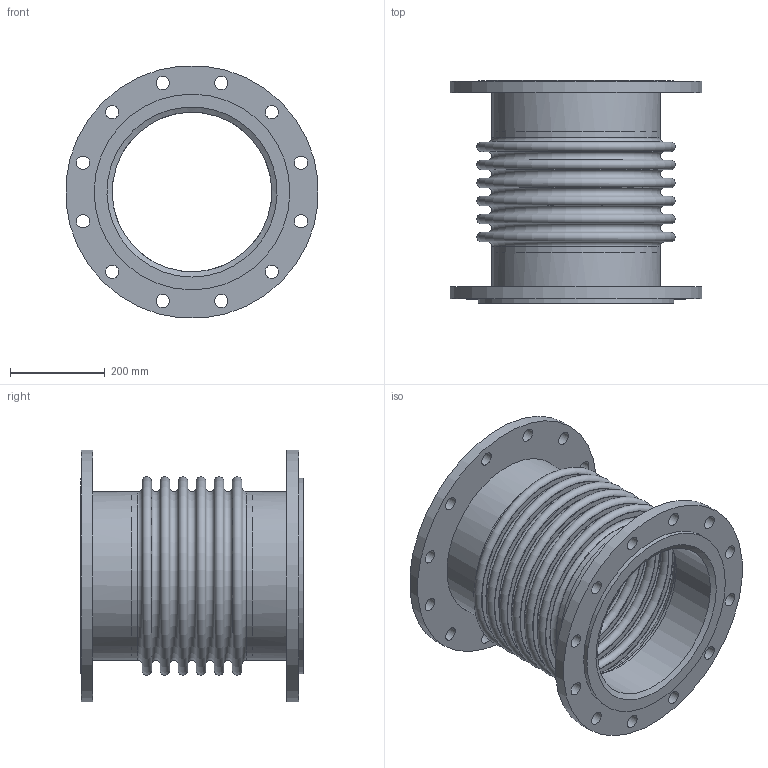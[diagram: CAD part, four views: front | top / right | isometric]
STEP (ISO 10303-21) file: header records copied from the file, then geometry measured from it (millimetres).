
FILE_DESCRIPTION(/* description */ (''),/* implementation_level */ '2;1');
FILE_NAME(/* name */ '\\Mleuckthor2\cad-proe_solids\WEBSITE FILES 05.22.13\STEP\EFL50 ASA150LB\EFL50-14x18.50 (ASA150LB).stp',/* time_stamp */ '2016-05-16T08:59:42-04:00',/* author */ ('rramoutar'),/* organization */ ('Mason Industries Inc.'),/* preprocessor_version */ 'ST-DEVELOPER v15.6',/* originating_system */ 'Autodesk Inventor 2015',/* authorisation */ '');
FILE_SCHEMA (('CONFIG_CONTROL_DESIGN'));
Length unit declared in the file: inch
Products named in the file (1): EFL50-14x18.50
Bounding box: 531.37 x 469.9 x 531.37 mm (x, y, z)
Volume: 8825141.7 mm3; surface area: 2462650.2 mm2
Topology: 1 solids, 1 shells, 101 faces, 213 edges, 147 vertices
Faces by surface type: cylinder 37, plane 35, torus 26, cone 3
Full cylindrical faces by diameter (mm): 28.575 x24, 336.55 x2, 353.568 x2, 355.6 x2, 358.775 x3, 412.75 x2, 533.4 x2
Entity records: 2512 total; most frequent: DIRECTION 454, CARTESIAN_POINT 352, EDGE_LOOP 250, ORIENTED_EDGE 250, AXIS2_PLACEMENT_3D 227, FACE_BOUND 149, CIRCLE 125, VERTEX_POINT 125
